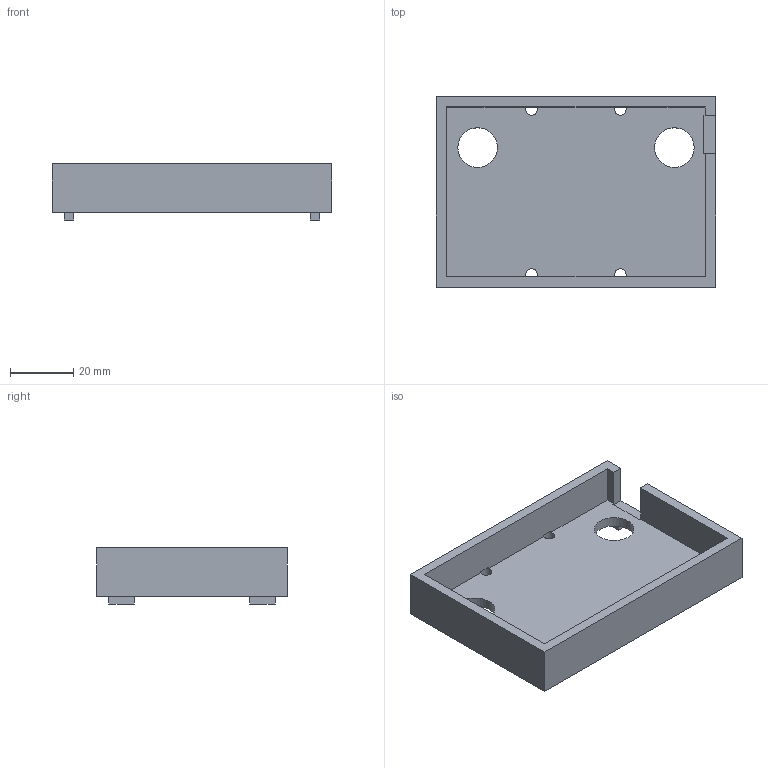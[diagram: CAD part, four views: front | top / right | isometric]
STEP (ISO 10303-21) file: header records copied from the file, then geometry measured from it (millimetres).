
FILE_DESCRIPTION(('FreeCAD Model'),'2;1');
FILE_NAME('Open CASCADE Shape Model','2026-09-11T14:18:25',( '' ),( '' ),'Open CASCADE STEP processor 7.8','FreeCAD','Unknown');
FILE_SCHEMA(('AUTOMOTIVE_DESIGN { 1 0 10303 214 1 1 1 1 }'));
Length unit declared in the file: millimetre
Products named in the file (1): Open CASCADE STEP translator 7.8 4
Bounding box: 88 x 60 x 17.7 mm (x, y, z)
Volume: 26607.6 mm3; surface area: 18160.3 mm2
Topology: 1 solids, 1 shells, 46 faces, 132 edges, 88 vertices
Faces by surface type: plane 40, cylinder 6
Full cylindrical faces by diameter (mm): 3.6 x4, 12.5 x2
Entity records: 1530 total; most frequent: CARTESIAN_POINT 267, ORIENTED_EDGE 264, DIRECTION 246, EDGE_CURVE 132, LINE 112, VECTOR 112, VERTEX_POINT 88, AXIS2_PLACEMENT_3D 67
